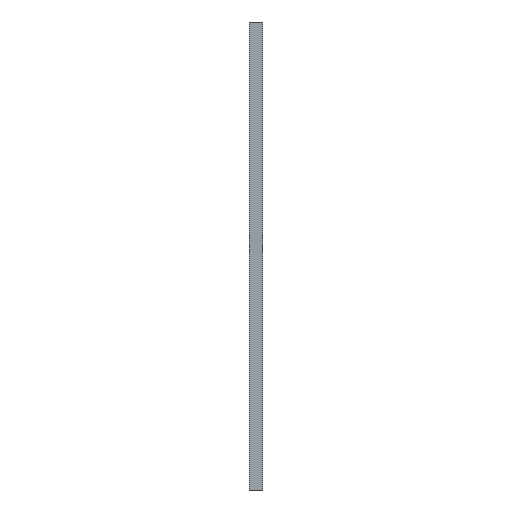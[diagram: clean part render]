
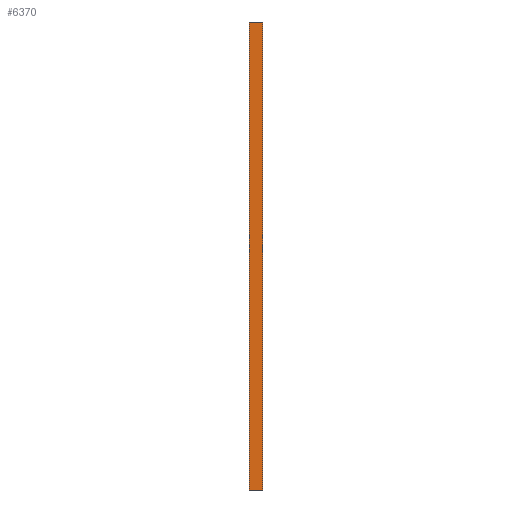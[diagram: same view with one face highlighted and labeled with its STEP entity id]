
A CAD part, left-side view. The second image highlights one B-rep face of the part: STEP entity #6370.
In plain terms, the highlighted planar face has unit normal (-1, 0, 0).
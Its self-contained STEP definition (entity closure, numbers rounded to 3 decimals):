
#672 = VECTOR ( 'NONE', #5259, 1000. ) ;
#1367 = VECTOR ( 'NONE', #12835, 1000. ) ;
#1379 = VERTEX_POINT ( 'NONE', #2222 ) ;
#1985 = DIRECTION ( 'NONE',  ( 0., -1., 0. ) ) ;
#2222 = CARTESIAN_POINT ( 'NONE',  ( -225., 0., -225. ) ) ;
#2404 = DIRECTION ( 'NONE',  ( 0., -1., 0. ) ) ;
#2603 = CARTESIAN_POINT ( 'NONE',  ( -225., 13., -225. ) ) ;
#5259 = DIRECTION ( 'NONE',  ( 0., 0., 1. ) ) ;
#6115 = EDGE_CURVE ( 'NONE', #1379, #20461, #17025, .T. ) ;
#6370 = ADVANCED_FACE ( 'NONE', ( #26797 ), #7672, .F. ) ;
#7158 = CARTESIAN_POINT ( 'NONE',  ( -225., 13., 225. ) ) ;
#7672 = PLANE ( 'NONE',  #26375 ) ;
#7952 = CARTESIAN_POINT ( 'NONE',  ( -225., 13., -225. ) ) ;
#11399 = LINE ( 'NONE', #2603, #672 ) ;
#11630 = VERTEX_POINT ( 'NONE', #12177 ) ;
#12177 = CARTESIAN_POINT ( 'NONE',  ( -225., 13., -225. ) ) ;
#12373 = EDGE_CURVE ( 'NONE', #11630, #20295, #11399, .T. ) ;
#12835 = DIRECTION ( 'NONE',  ( 0., 0., 1. ) ) ;
#13251 = EDGE_CURVE ( 'NONE', #20295, #20461, #26282, .T. ) ;
#13653 = VECTOR ( 'NONE', #2404, 1000. ) ;
#14925 = CARTESIAN_POINT ( 'NONE',  ( -225., 0., -225. ) ) ;
#16449 = DIRECTION ( 'NONE',  ( 1., 0., 0. ) ) ;
#17025 = LINE ( 'NONE', #14925, #1367 ) ;
#18122 = CARTESIAN_POINT ( 'NONE',  ( -225., 13., 225. ) ) ;
#20295 = VERTEX_POINT ( 'NONE', #18122 ) ;
#20461 = VERTEX_POINT ( 'NONE', #25095 ) ;
#21111 = CARTESIAN_POINT ( 'NONE',  ( -225., 13., -225. ) ) ;
#21243 = ORIENTED_EDGE ( 'NONE', *, *, #6115, .T. ) ;
#22696 = ORIENTED_EDGE ( 'NONE', *, *, #13251, .F. ) ;
#23211 = LINE ( 'NONE', #21111, #27482 ) ;
#23381 = EDGE_LOOP ( 'NONE', ( #21243, #22696, #27383, #24247 ) ) ;
#24247 = ORIENTED_EDGE ( 'NONE', *, *, #25435, .T. ) ;
#24981 = DIRECTION ( 'NONE',  ( 0., 0., -1. ) ) ;
#25095 = CARTESIAN_POINT ( 'NONE',  ( -225., 0., 225. ) ) ;
#25435 = EDGE_CURVE ( 'NONE', #11630, #1379, #23211, .T. ) ;
#26282 = LINE ( 'NONE', #7158, #13653 ) ;
#26375 = AXIS2_PLACEMENT_3D ( 'NONE', #7952, #16449, #24981 ) ;
#26797 = FACE_OUTER_BOUND ( 'NONE', #23381, .T. ) ;
#27383 = ORIENTED_EDGE ( 'NONE', *, *, #12373, .F. ) ;
#27482 = VECTOR ( 'NONE', #1985, 1000. ) ;
